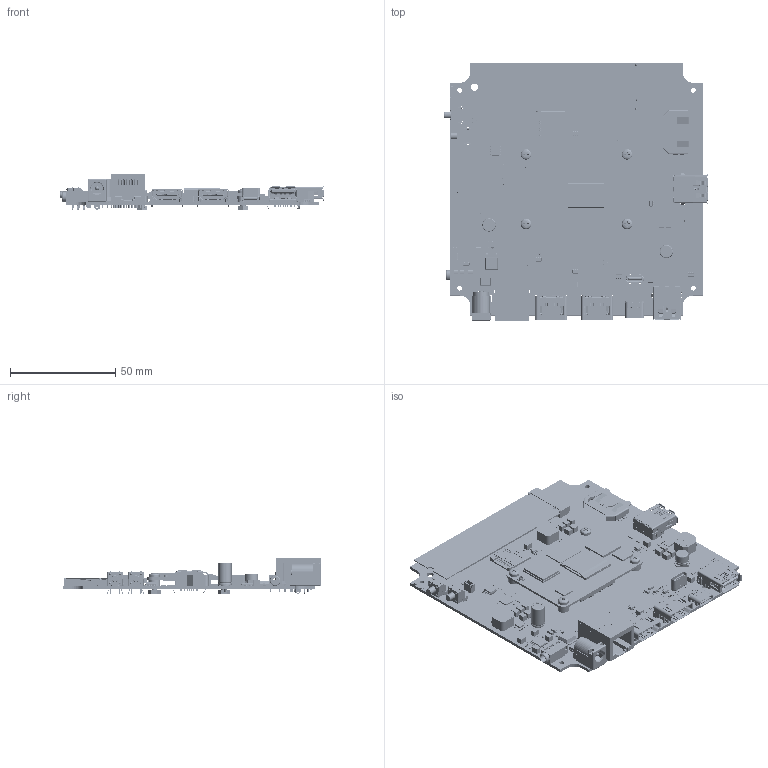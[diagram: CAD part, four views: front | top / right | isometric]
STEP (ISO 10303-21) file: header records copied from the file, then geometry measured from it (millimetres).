
FILE_DESCRIPTION(('KiCad electronic assembly'),'2;1');
FILE_NAME('screenly-cm5-player-R0.step','2026-11-24T23:05:13',('Pcbnew') ,('Kicad'),'Open CASCADE STEP processor 7.9','KiCad to STEP converter' ,'Unknown');
FILE_SCHEMA(('AUTOMOTIVE_DESIGN { 1 0 10303 214 1 1 1 1 }'));
Length unit declared in the file: millimetre
Products named in the file (533): screenly-cm5-player-R0 1; C1210_270; Part 3; Part 2; Part 1; USB-A3-S-RA; C_0402_1005Metric; 0402_RES; capsule; innard; top_cover; D_SMB; SW_Tactile_SPST_Angled_PTS645Vx58-2LFS; SOT-23-6; SOT_23_6; cross_recessed_phillips_pan_head_M2.5x08; VITE_TESTA_CILINDRICA_PHILLIPS; hexagonal_nut_normal_height_M2.5; DADO_ESAGONALE_NORMALE; spacer-m3x3; Spacer-M3; raspberry-pi-cm5-r5-simplified; CM5r5; Components; ComponentsTop; U3; 200-ball_VFBGAold.step201; 200-ball_VFBGAold.step; 200-ball_VFBGAold.step001; 200-ball_VFBGAold.step002; 200-ball_VFBGAold.step003; 200-ball_VFBGAold.step004; 200-ball_VFBGAold.step005; 200-ball_VFBGAold.step006; 200-ball_VFBGAold.step007; 200-ball_VFBGAold.step008; 200-ball_VFBGAold.step009; 200-ball_VFBGAold.step010; 200-ball_VFBGAold.step011; 200-ball_VFBGAold.step012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
Assembly tree (719 placements, depth 9):
  screenly-cm5-player-R0 1
    C1210_270  x24
      Part 3
      Part 2
      Part 1
    USB-A3-S-RA  x2
      USB-A3-S-RA
    C_0402_1005Metric  x49
      C_0402_1005Metric
    0402_RES  x73
      0402_RES
        capsule  x2
        innard
        top_cover
    D_SMB
      D_SMB
    SW_Tactile_SPST_Angled_PTS645Vx58-2LFS  x2
      SW_Tactile_SPST_Angled_PTS645Vx58-2LFS
    SOT-23-6  x6
      SOT_23_6
    cross_recessed_phillips_pan_head_M2.5x08  x4
      VITE_TESTA_CILINDRICA_PHILLIPS
    hexagonal_nut_normal_height_M2.5  x4
      DADO_ESAGONALE_NORMALE
    spacer-m3x3  x4
      Spacer-M3
    raspberry-pi-cm5-r5-simplified
      CM5r5
        Components
          ComponentsTop
            U3
              200-ball_VFBGAold.step201
                200-ball_VFBGAold.step
                200-ball_VFBGAold.step001
                200-ball_VFBGAold.step002
                200-ball_VFBGAold.step003
                200-ball_VFBGAold.step004
                200-ball_VFBGAold.step005
                200-ball_VFBGAold.step006
                200-ball_VFBGAold.step007
                200-ball_VFBGAold.step008
                200-ball_VFBGAold.step009
                200-ball_VFBGAold.step010
                200-ball_VFBGAold.step011
                200-ball_VFBGAold.step012
                200-ball_VFBGAold.step013
                200-ball_VFBGAold.step014
                200-ball_VFBGAold.step015
                200-ball_VFBGAold.step016
                200-ball_VFBGAold.step017
                200-ball_VFBGAold.step018
                200-ball_VFBGAold.step019
                200-ball_VFBGAold.step020
                200-ball_VFBGAold.step021
                200-ball_VFBGAold.step022
                200-ball_VFBGAold.step023
                200-ball_VFBGAold.step024
                200-ball_VFBGAold.step025
                200-ball_VFBGAold.step026
                200-ball_VFBGAold.step027
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Bounding box: 125.08 x 122.67 x 17.5 mm (x, y, z)
Volume: 36928 mm3; surface area: 68128.8 mm2
Topology: 977 solids, 991 shells, 36633 faces, 100894 edges, 65683 vertices
Faces by surface type: plane 23097, cylinder 8225, bspline 3419, sphere 1623, cone 204, torus 56, revolution 9
Full cylindrical faces by diameter (mm): 0.2 x13, 0.3 x18, 0.4 x2, 0.5 x4, 0.52 x2, 0.55 x2, 0.6 x1, 0.7 x18, 0.8 x8, 0.9 x16, 0.99 x4, 1 x9, 1.1 x1, 1.2 x4, 1.3 x4, 1.5 x2, 1.6 x3, 2.3 x8, 2.5 x8, 2.7 x4, 3 x4, 3.14 x2, 3.25 x2, 3.4 x3, 3.5 x2, 4.7 x2, 5 x4, 5.5 x4, 5.9 x3, 6.1 x2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
Entity records: 618002 total; most frequent: CARTESIAN_POINT 119688, ORIENTED_EDGE 97444, DIRECTION 94247, EDGE_CURVE 48796, LINE 34983, VECTOR 34983, VERTEX_POINT 32310, AXIS2_PLACEMENT_3D 29629
